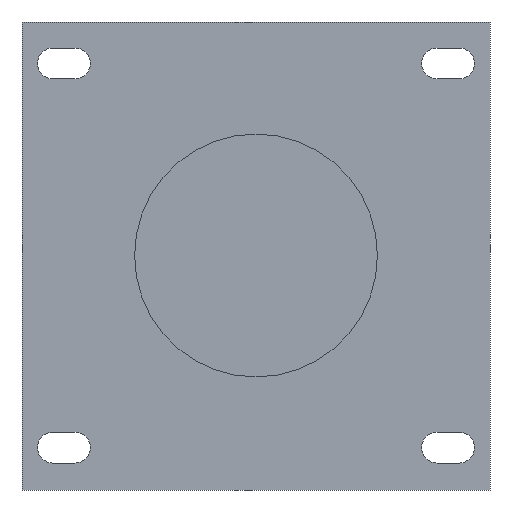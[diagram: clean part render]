
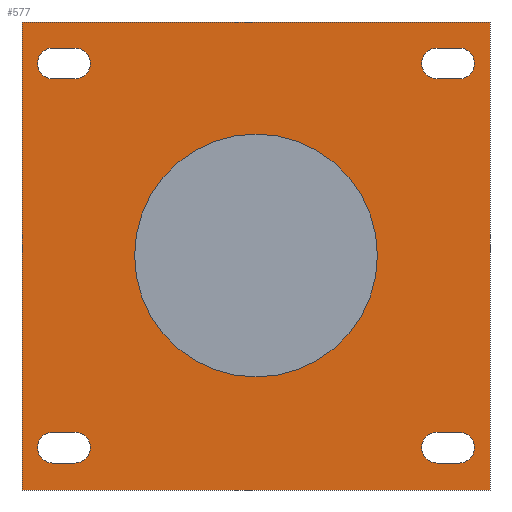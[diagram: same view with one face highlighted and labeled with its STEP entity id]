
A CAD part, front view. The second image highlights one B-rep face of the part: STEP entity #577.
In plain terms, the highlighted planar face has unit normal (0, -1, 0).
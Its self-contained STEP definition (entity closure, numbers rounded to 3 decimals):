
#350=FACE_BOUND('',#1103,.T.);
#351=FACE_BOUND('',#1104,.T.);
#352=FACE_BOUND('',#1105,.T.);
#353=FACE_BOUND('',#1106,.T.);
#354=FACE_BOUND('',#1107,.T.);
#355=FACE_BOUND('',#1108,.T.);
#577=ADVANCED_FACE('',(#350,#351,#352,#353,#354,#355),#727,.T.);
#727=PLANE('',#3676);
#1103=EDGE_LOOP('',(#1914,#1915,#1916,#1917));
#1104=EDGE_LOOP('',(#1918));
#1105=EDGE_LOOP('',(#1919,#1920,#1921,#1922));
#1106=EDGE_LOOP('',(#1923,#1924,#1925,#1926));
#1107=EDGE_LOOP('',(#1927,#1928,#1929,#1930));
#1108=EDGE_LOOP('',(#1931,#1932,#1933,#1934));
#1914=ORIENTED_EDGE('',*,*,#2620,.T.);
#1915=ORIENTED_EDGE('',*,*,#2617,.T.);
#1916=ORIENTED_EDGE('',*,*,#2622,.F.);
#1917=ORIENTED_EDGE('',*,*,#2611,.F.);
#1918=ORIENTED_EDGE('',*,*,#2671,.F.);
#1919=ORIENTED_EDGE('',*,*,#2670,.F.);
#1920=ORIENTED_EDGE('',*,*,#2661,.F.);
#1921=ORIENTED_EDGE('',*,*,#2665,.F.);
#1922=ORIENTED_EDGE('',*,*,#2668,.F.);
#1923=ORIENTED_EDGE('',*,*,#2658,.F.);
#1924=ORIENTED_EDGE('',*,*,#2649,.F.);
#1925=ORIENTED_EDGE('',*,*,#2653,.F.);
#1926=ORIENTED_EDGE('',*,*,#2656,.F.);
#1927=ORIENTED_EDGE('',*,*,#2646,.F.);
#1928=ORIENTED_EDGE('',*,*,#2637,.F.);
#1929=ORIENTED_EDGE('',*,*,#2641,.F.);
#1930=ORIENTED_EDGE('',*,*,#2644,.F.);
#1931=ORIENTED_EDGE('',*,*,#2634,.F.);
#1932=ORIENTED_EDGE('',*,*,#2625,.F.);
#1933=ORIENTED_EDGE('',*,*,#2629,.F.);
#1934=ORIENTED_EDGE('',*,*,#2632,.F.);
#2213=VERTEX_POINT('',#5441);
#2214=VERTEX_POINT('',#5442);
#2219=VERTEX_POINT('',#5453);
#2220=VERTEX_POINT('',#5455);
#2223=VERTEX_POINT('',#5468);
#2224=VERTEX_POINT('',#5470);
#2226=VERTEX_POINT('',#5476);
#2228=VERTEX_POINT('',#5482);
#2231=VERTEX_POINT('',#5492);
#2232=VERTEX_POINT('',#5494);
#2234=VERTEX_POINT('',#5500);
#2236=VERTEX_POINT('',#5506);
#2239=VERTEX_POINT('',#5516);
#2240=VERTEX_POINT('',#5518);
#2242=VERTEX_POINT('',#5524);
#2244=VERTEX_POINT('',#5530);
#2247=VERTEX_POINT('',#5540);
#2248=VERTEX_POINT('',#5542);
#2250=VERTEX_POINT('',#5548);
#2252=VERTEX_POINT('',#5554);
#2253=VERTEX_POINT('',#5561);
#2611=EDGE_CURVE('',#2213,#2214,#3082,.T.);
#2617=EDGE_CURVE('',#2220,#2219,#3088,.T.);
#2620=EDGE_CURVE('',#2213,#2220,#3091,.T.);
#2622=EDGE_CURVE('',#2214,#2219,#3093,.T.);
#2625=EDGE_CURVE('',#2223,#2224,#3096,.T.);
#2629=EDGE_CURVE('',#2226,#2223,#2784,.T.);
#2632=EDGE_CURVE('',#2228,#2226,#3101,.T.);
#2634=EDGE_CURVE('',#2224,#2228,#2786,.T.);
#2637=EDGE_CURVE('',#2231,#2232,#3104,.T.);
#2641=EDGE_CURVE('',#2234,#2231,#2788,.T.);
#2644=EDGE_CURVE('',#2236,#2234,#3109,.T.);
#2646=EDGE_CURVE('',#2232,#2236,#2790,.T.);
#2649=EDGE_CURVE('',#2239,#2240,#3112,.T.);
#2653=EDGE_CURVE('',#2242,#2239,#2792,.T.);
#2656=EDGE_CURVE('',#2244,#2242,#3117,.T.);
#2658=EDGE_CURVE('',#2240,#2244,#2794,.T.);
#2661=EDGE_CURVE('',#2247,#2248,#3120,.T.);
#2665=EDGE_CURVE('',#2250,#2247,#2796,.T.);
#2668=EDGE_CURVE('',#2252,#2250,#3125,.T.);
#2670=EDGE_CURVE('',#2248,#2252,#2798,.T.);
#2671=EDGE_CURVE('',#2253,#2253,#2799,.T.);
#2784=CIRCLE('',#3642,3.5);
#2786=CIRCLE('',#3646,3.5);
#2788=CIRCLE('',#3650,3.5);
#2790=CIRCLE('',#3654,3.5);
#2792=CIRCLE('',#3658,3.5);
#2794=CIRCLE('',#3662,3.5);
#2796=CIRCLE('',#3666,3.5);
#2798=CIRCLE('',#3670,3.5);
#2799=CIRCLE('',#3672,27.5);
#3082=LINE('',#5440,#3339);
#3088=LINE('',#5454,#3345);
#3091=LINE('',#5459,#3348);
#3093=LINE('',#5462,#3350);
#3096=LINE('',#5469,#3353);
#3101=LINE('',#5483,#3358);
#3104=LINE('',#5493,#3361);
#3109=LINE('',#5507,#3366);
#3112=LINE('',#5517,#3369);
#3117=LINE('',#5531,#3374);
#3120=LINE('',#5541,#3377);
#3125=LINE('',#5555,#3382);
#3339=VECTOR('',#4456,1.);
#3345=VECTOR('',#4464,1.);
#3348=VECTOR('',#4469,1.);
#3350=VECTOR('',#4473,1.);
#3353=VECTOR('',#4478,1.);
#3358=VECTOR('',#4491,1.);
#3361=VECTOR('',#4502,1.);
#3366=VECTOR('',#4515,1.);
#3369=VECTOR('',#4526,1.);
#3374=VECTOR('',#4539,1.);
#3377=VECTOR('',#4550,1.);
#3382=VECTOR('',#4563,1.);
#3642=AXIS2_PLACEMENT_3D('',#5477,#4485,#4486);
#3646=AXIS2_PLACEMENT_3D('',#5486,#4496,#4497);
#3650=AXIS2_PLACEMENT_3D('',#5501,#4509,#4510);
#3654=AXIS2_PLACEMENT_3D('',#5510,#4520,#4521);
#3658=AXIS2_PLACEMENT_3D('',#5525,#4533,#4534);
#3662=AXIS2_PLACEMENT_3D('',#5534,#4544,#4545);
#3666=AXIS2_PLACEMENT_3D('',#5549,#4557,#4558);
#3670=AXIS2_PLACEMENT_3D('',#5558,#4568,#4569);
#3672=AXIS2_PLACEMENT_3D('',#5560,#4572,#4573);
#3676=AXIS2_PLACEMENT_3D('',#5566,#4580,#4581);
#4456=DIRECTION('',(0.,0.,-1.));
#4464=DIRECTION('',(0.,0.,-1.));
#4469=DIRECTION('',(-1.,0.,0.));
#4473=DIRECTION('',(-1.,0.,0.));
#4478=DIRECTION('',(-1.,0.,0.));
#4485=DIRECTION('',(0.,-1.,0.));
#4486=DIRECTION('',(0.,0.,-1.));
#4491=DIRECTION('',(1.,0.,0.));
#4496=DIRECTION('',(0.,-1.,0.));
#4497=DIRECTION('',(0.,0.,-1.));
#4502=DIRECTION('',(-1.,0.,0.));
#4509=DIRECTION('',(0.,-1.,0.));
#4510=DIRECTION('',(0.,0.,-1.));
#4515=DIRECTION('',(1.,0.,0.));
#4520=DIRECTION('',(0.,-1.,0.));
#4521=DIRECTION('',(0.,0.,-1.));
#4526=DIRECTION('',(-1.,0.,0.));
#4533=DIRECTION('',(0.,-1.,0.));
#4534=DIRECTION('',(0.,0.,-1.));
#4539=DIRECTION('',(1.,0.,0.));
#4544=DIRECTION('',(0.,-1.,0.));
#4545=DIRECTION('',(0.,0.,-1.));
#4550=DIRECTION('',(-1.,0.,0.));
#4557=DIRECTION('',(0.,-1.,0.));
#4558=DIRECTION('',(0.,0.,-1.));
#4563=DIRECTION('',(1.,0.,0.));
#4568=DIRECTION('',(0.,-1.,0.));
#4569=DIRECTION('',(0.,0.,-1.));
#4572=DIRECTION('',(0.,-1.,0.));
#4573=DIRECTION('',(0.,0.,-1.));
#4580=DIRECTION('',(0.,-1.,0.));
#4581=DIRECTION('',(-1.,0.,0.));
#5440=CARTESIAN_POINT('',(53.,-184.41,52.5));
#5441=CARTESIAN_POINT('',(53.,-184.41,53.));
#5442=CARTESIAN_POINT('',(53.,-184.41,-53.));
#5453=CARTESIAN_POINT('',(-53.,-184.41,-53.));
#5454=CARTESIAN_POINT('',(-53.,-184.41,52.5));
#5455=CARTESIAN_POINT('',(-53.,-184.41,53.));
#5459=CARTESIAN_POINT('',(52.5,-184.41,53.));
#5462=CARTESIAN_POINT('',(52.5,-184.41,-53.));
#5468=CARTESIAN_POINT('',(46.,-184.41,-39.894));
#5469=CARTESIAN_POINT('',(46.,-184.41,-39.894));
#5470=CARTESIAN_POINT('',(41.,-184.41,-39.894));
#5476=CARTESIAN_POINT('',(46.,-184.41,-46.894));
#5477=CARTESIAN_POINT('',(46.,-184.41,-43.394));
#5482=CARTESIAN_POINT('',(41.,-184.41,-46.894));
#5483=CARTESIAN_POINT('',(41.,-184.41,-46.894));
#5486=CARTESIAN_POINT('',(41.,-184.41,-43.394));
#5492=CARTESIAN_POINT('',(-41.,-184.41,-39.894));
#5493=CARTESIAN_POINT('',(-41.,-184.41,-39.894));
#5494=CARTESIAN_POINT('',(-46.,-184.41,-39.894));
#5500=CARTESIAN_POINT('',(-41.,-184.41,-46.894));
#5501=CARTESIAN_POINT('',(-41.,-184.41,-43.394));
#5506=CARTESIAN_POINT('',(-46.,-184.41,-46.894));
#5507=CARTESIAN_POINT('',(-46.,-184.41,-46.894));
#5510=CARTESIAN_POINT('',(-46.,-184.41,-43.394));
#5516=CARTESIAN_POINT('',(46.,-184.41,47.106));
#5517=CARTESIAN_POINT('',(46.,-184.41,47.106));
#5518=CARTESIAN_POINT('',(41.,-184.41,47.106));
#5524=CARTESIAN_POINT('',(46.,-184.41,40.106));
#5525=CARTESIAN_POINT('',(46.,-184.41,43.606));
#5530=CARTESIAN_POINT('',(41.,-184.41,40.106));
#5531=CARTESIAN_POINT('',(41.,-184.41,40.106));
#5534=CARTESIAN_POINT('',(41.,-184.41,43.606));
#5540=CARTESIAN_POINT('',(-41.,-184.41,47.106));
#5541=CARTESIAN_POINT('',(-41.,-184.41,47.106));
#5542=CARTESIAN_POINT('',(-46.,-184.41,47.106));
#5548=CARTESIAN_POINT('',(-41.,-184.41,40.106));
#5549=CARTESIAN_POINT('',(-41.,-184.41,43.606));
#5554=CARTESIAN_POINT('',(-46.,-184.41,40.106));
#5555=CARTESIAN_POINT('',(-46.,-184.41,40.106));
#5558=CARTESIAN_POINT('',(-46.,-184.41,43.606));
#5560=CARTESIAN_POINT('',(0.,-184.41,0.106));
#5561=CARTESIAN_POINT('',(0.,-184.41,-27.394));
#5566=CARTESIAN_POINT('',(52.5,-184.41,52.5));
